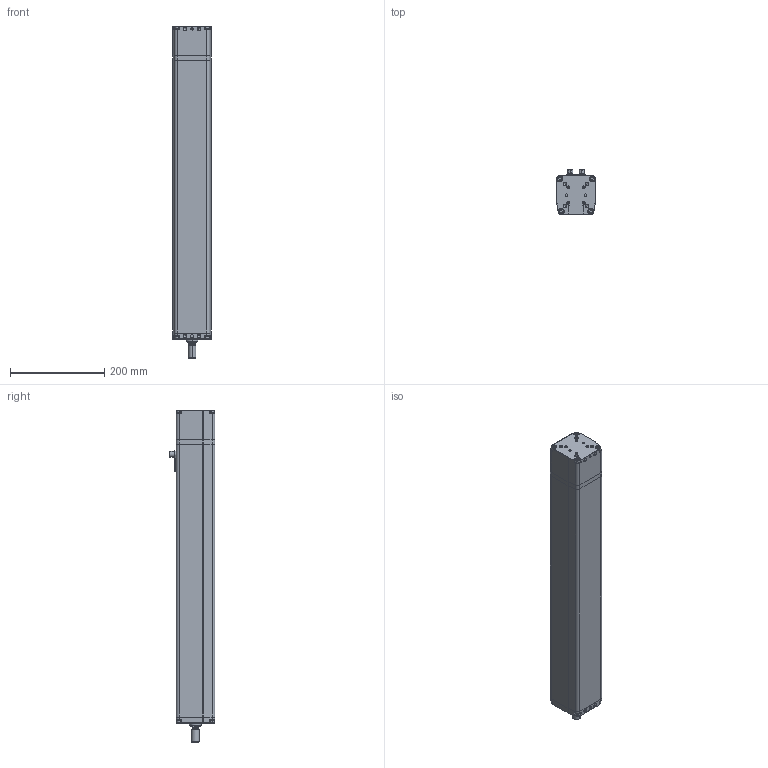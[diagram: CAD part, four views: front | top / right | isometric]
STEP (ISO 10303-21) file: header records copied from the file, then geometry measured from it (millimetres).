
FILE_DESCRIPTION (( 'STEP AP203' ), '1' );
FILE_NAME ('CTC-080-K__-____-_.step', '2023-09-29T09:47:44', ( '' ), ( '' ), 'SwSTEP 2.0', 'SolidWorks 2020', '' );
FILE_SCHEMA (( 'CONFIG_CONTROL_DESIGN' ));
Length unit declared in the file: millimetre
Products named in the file (4): CTC-080-K__-____-_; CTC-080_Schubrohr_Hub 0500; CTC-080_Aufsatz-A_M16x1.5; CTC-080_housing_Hub_0500
Assembly tree (3 placements, depth 2):
  CTC-080-K__-____-_
    CTC-080_housing_Hub_0500
    CTC-080_Schubrohr_Hub 0500
    CTC-080_Aufsatz-A_M16x1.5
Bounding box: 82 x 96.3 x 704 mm (x, y, z)
Volume: 3846499.3 mm3; surface area: 469053.9 mm2
Topology: 30 solids, 30 shells, 796 faces, 1775 edges, 1093 vertices
Faces by surface type: cylinder 305, plane 297, cone 114, torus 72, sphere 8
Entity records: 22351 total; most frequent: DIRECTION 4147, CARTESIAN_POINT 3798, ORIENTED_EDGE 3486, EDGE_CURVE 1743, AXIS2_PLACEMENT_3D 1638, VERTEX_POINT 1093, EDGE_LOOP 890, VECTOR 871
